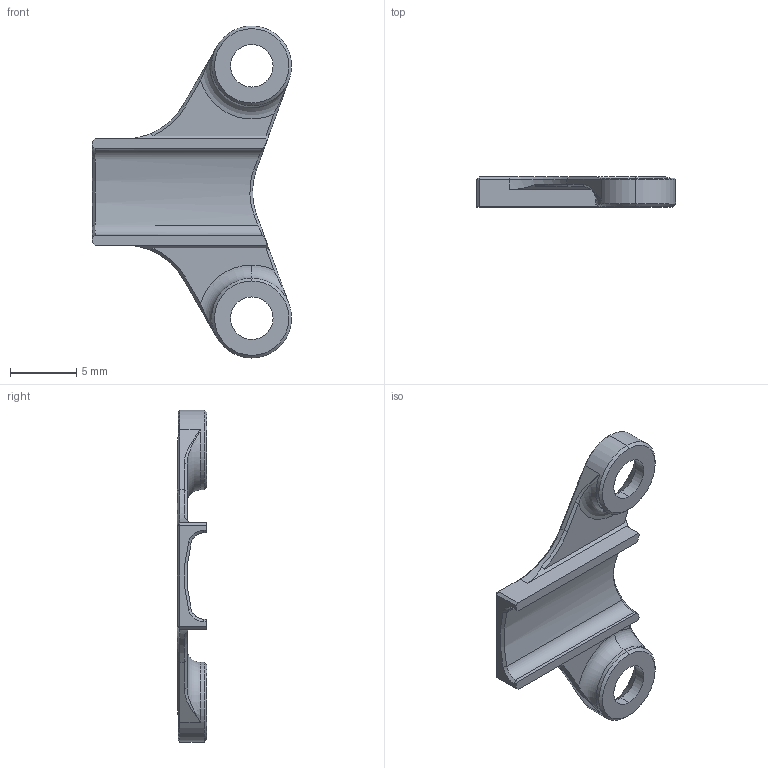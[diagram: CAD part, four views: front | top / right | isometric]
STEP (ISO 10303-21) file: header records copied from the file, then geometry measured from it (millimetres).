
FILE_DESCRIPTION (( 'STEP AP214' ), '1' );
FILE_NAME ('BR01_KNEE_CABLE_CLIP.STEP');
FILE_SCHEMA (( 'CONFIG_CONTROL_DESIGN' ));
Length unit declared in the file: millimetre
Products named in the file (1): BR01_KNEE_CABLE_CLIP
Bounding box: 15 x 2.25 x 25 mm (x, y, z)
Volume: 229.3 mm3; surface area: 573.4 mm2
Topology: 1 solids, 1 shells, 84 faces, 209 edges, 121 vertices
Faces by surface type: plane 39, cone 19, cylinder 14, bspline 9, torus 3
Entity records: 3339 total; most frequent: CARTESIAN_POINT 1404, ORIENTED_EDGE 410, DIRECTION 373, EDGE_CURVE 205, AXIS2_PLACEMENT_3D 128, VERTEX_POINT 121, VECTOR 117, LINE 117
